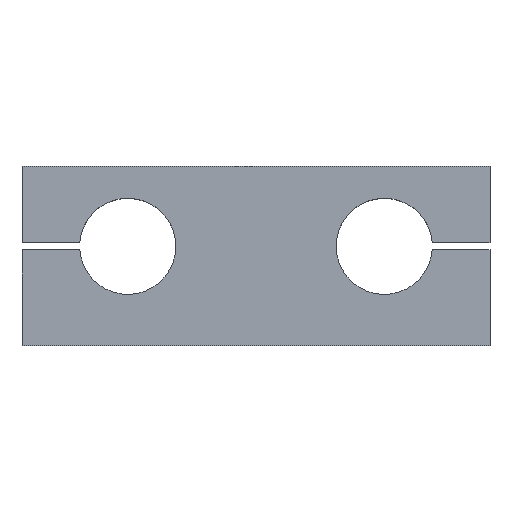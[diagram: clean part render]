
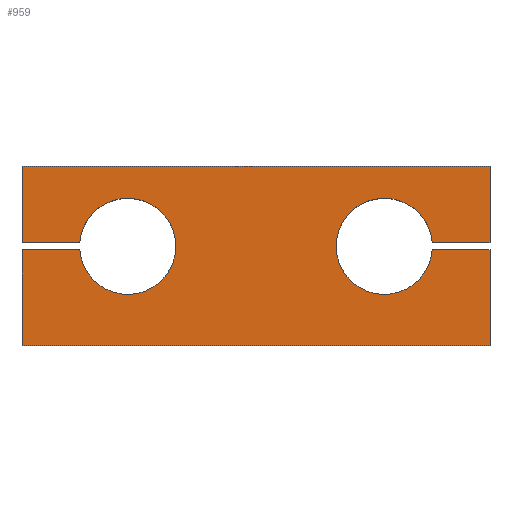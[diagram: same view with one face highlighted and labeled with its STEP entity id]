
A CAD part, top view. The second image highlights one B-rep face of the part: STEP entity #959.
In plain terms, the highlighted planar face has unit normal (0, 0, 1).
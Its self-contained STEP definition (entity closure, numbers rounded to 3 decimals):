
#1 = VERTEX_POINT ( 'NONE', #639 ) ;
#3 = CARTESIAN_POINT ( 'NONE',  ( -73., -28., 10. ) ) ;
#38 = VERTEX_POINT ( 'NONE', #570 ) ;
#47 = ORIENTED_EDGE ( 'NONE', *, *, #863, .F. ) ;
#61 = VECTOR ( 'NONE', #236, 1000. ) ;
#64 = VERTEX_POINT ( 'NONE', #539 ) ;
#76 = PLANE ( 'NONE',  #694 ) ;
#77 = EDGE_CURVE ( 'NONE', #723, #350, #91, .T. ) ;
#79 = DIRECTION ( 'NONE',  ( 1., 0., 0. ) ) ;
#83 = DIRECTION ( 'NONE',  ( 1., 0., 0. ) ) ;
#91 = LINE ( 'NONE', #180, #264 ) ;
#97 = CARTESIAN_POINT ( 'NONE',  ( -40., 3., 10. ) ) ;
#106 = CARTESIAN_POINT ( 'NONE',  ( -73., 28., 10. ) ) ;
#107 = VECTOR ( 'NONE', #828, 1000. ) ;
#123 = ORIENTED_EDGE ( 'NONE', *, *, #797, .F. ) ;
#138 = ORIENTED_EDGE ( 'NONE', *, *, #506, .T. ) ;
#151 = EDGE_CURVE ( 'NONE', #792, #38, #342, .T. ) ;
#154 = FACE_OUTER_BOUND ( 'NONE', #404, .T. ) ;
#180 = CARTESIAN_POINT ( 'NONE',  ( 73., 28., 10. ) ) ;
#211 = CARTESIAN_POINT ( 'NONE',  ( -73., 4.075, 10. ) ) ;
#220 = AXIS2_PLACEMENT_3D ( 'NONE', #97, #779, #444 ) ;
#222 = VECTOR ( 'NONE', #749, 1000. ) ;
#232 = CARTESIAN_POINT ( 'NONE',  ( 39., 4.075, 10. ) ) ;
#233 = ORIENTED_EDGE ( 'NONE', *, *, #1001, .F. ) ;
#236 = DIRECTION ( 'NONE',  ( 0., -1., 0. ) ) ;
#241 = LINE ( 'NONE', #232, #222 ) ;
#255 = DIRECTION ( 'NONE',  ( 0., 0., 1. ) ) ;
#264 = VECTOR ( 'NONE', #600, 1000. ) ;
#274 = VERTEX_POINT ( 'NONE', #534 ) ;
#275 = DIRECTION ( 'NONE',  ( 1., 0., 0. ) ) ;
#279 = VERTEX_POINT ( 'NONE', #876 ) ;
#286 = CARTESIAN_POINT ( 'NONE',  ( 73., 1.925, 10. ) ) ;
#287 = EDGE_CURVE ( 'NONE', #274, #1, #941, .T. ) ;
#319 = CARTESIAN_POINT ( 'NONE',  ( -73., 28., 10. ) ) ;
#321 = LINE ( 'NONE', #211, #557 ) ;
#323 = EDGE_CURVE ( 'NONE', #274, #903, #769, .T. ) ;
#330 = LINE ( 'NONE', #1002, #61 ) ;
#331 = CARTESIAN_POINT ( 'NONE',  ( -73., 4.075, 10. ) ) ;
#342 = CIRCLE ( 'NONE', #463, 15. ) ;
#349 = CARTESIAN_POINT ( 'NONE',  ( -73., 1.925, 10. ) ) ;
#350 = VERTEX_POINT ( 'NONE', #286 ) ;
#354 = DIRECTION ( 'NONE',  ( 1., 0., 0. ) ) ;
#378 = CARTESIAN_POINT ( 'NONE',  ( 54.961, 4.075, 10. ) ) ;
#404 = EDGE_LOOP ( 'NONE', ( #123, #1016, #821, #458, #1056, #739, #996, #47, #233, #552, #649, #524, #138 ) ) ;
#437 = LINE ( 'NONE', #3, #1031 ) ;
#444 = DIRECTION ( 'NONE',  ( 1., 0., 0. ) ) ;
#458 = ORIENTED_EDGE ( 'NONE', *, *, #323, .F. ) ;
#463 = AXIS2_PLACEMENT_3D ( 'NONE', #698, #880, #275 ) ;
#464 = VERTEX_POINT ( 'NONE', #1051 ) ;
#483 = CARTESIAN_POINT ( 'NONE',  ( 73., 28., 10. ) ) ;
#488 = EDGE_CURVE ( 'NONE', #1103, #1109, #241, .T. ) ;
#493 = EDGE_CURVE ( 'NONE', #279, #464, #745, .T. ) ;
#506 = EDGE_CURVE ( 'NONE', #464, #868, #330, .T. ) ;
#511 = EDGE_CURVE ( 'NONE', #1103, #279, #665, .T. ) ;
#524 = ORIENTED_EDGE ( 'NONE', *, *, #493, .T. ) ;
#534 = CARTESIAN_POINT ( 'NONE',  ( -73., 1.925, 10. ) ) ;
#539 = CARTESIAN_POINT ( 'NONE',  ( 54.961, 1.925, 10. ) ) ;
#552 = ORIENTED_EDGE ( 'NONE', *, *, #488, .F. ) ;
#557 = VECTOR ( 'NONE', #732, 1000. ) ;
#570 = CARTESIAN_POINT ( 'NONE',  ( -54.961, 4.075, 10. ) ) ;
#576 = VECTOR ( 'NONE', #83, 1000. ) ;
#582 = CARTESIAN_POINT ( 'NONE',  ( -54.961, 1.925, 10. ) ) ;
#592 = CARTESIAN_POINT ( 'NONE',  ( 39., 1.925, 10. ) ) ;
#597 = DIRECTION ( 'NONE',  ( 1., 0., 0. ) ) ;
#600 = DIRECTION ( 'NONE',  ( 0., 1., 0. ) ) ;
#639 = CARTESIAN_POINT ( 'NONE',  ( -73., -28., 10. ) ) ;
#649 = ORIENTED_EDGE ( 'NONE', *, *, #511, .T. ) ;
#665 = LINE ( 'NONE', #483, #107 ) ;
#694 = AXIS2_PLACEMENT_3D ( 'NONE', #840, #1019, #79 ) ;
#698 = CARTESIAN_POINT ( 'NONE',  ( -40., 3., 10. ) ) ;
#719 = CARTESIAN_POINT ( 'NONE',  ( 73., 4.075, 10. ) ) ;
#723 = VERTEX_POINT ( 'NONE', #1004 ) ;
#732 = DIRECTION ( 'NONE',  ( -1., 0., 0. ) ) ;
#739 = ORIENTED_EDGE ( 'NONE', *, *, #1055, .T. ) ;
#745 = LINE ( 'NONE', #319, #839 ) ;
#746 = CARTESIAN_POINT ( 'NONE',  ( -25., 3., 10. ) ) ;
#749 = DIRECTION ( 'NONE',  ( -1., 0., 0. ) ) ;
#768 = DIRECTION ( 'NONE',  ( 1., 0., 0. ) ) ;
#769 = LINE ( 'NONE', #349, #804 ) ;
#779 = DIRECTION ( 'NONE',  ( 0., 0., 1. ) ) ;
#782 = CIRCLE ( 'NONE', #220, 15. ) ;
#792 = VERTEX_POINT ( 'NONE', #746 ) ;
#797 = EDGE_CURVE ( 'NONE', #38, #868, #321, .T. ) ;
#804 = VECTOR ( 'NONE', #354, 1000. ) ;
#821 = ORIENTED_EDGE ( 'NONE', *, *, #1070, .F. ) ;
#828 = DIRECTION ( 'NONE',  ( 0., 1., 0. ) ) ;
#837 = AXIS2_PLACEMENT_3D ( 'NONE', #1010, #255, #597 ) ;
#839 = VECTOR ( 'NONE', #1089, 1000. ) ;
#840 = CARTESIAN_POINT ( 'NONE',  ( 0., 0., 10. ) ) ;
#863 = EDGE_CURVE ( 'NONE', #64, #350, #1014, .T. ) ;
#868 = VERTEX_POINT ( 'NONE', #331 ) ;
#876 = CARTESIAN_POINT ( 'NONE',  ( 73., 28., 10. ) ) ;
#880 = DIRECTION ( 'NONE',  ( 0., 0., 1. ) ) ;
#899 = VECTOR ( 'NONE', #1023, 1000. ) ;
#903 = VERTEX_POINT ( 'NONE', #582 ) ;
#941 = LINE ( 'NONE', #106, #899 ) ;
#959 = ADVANCED_FACE ( 'NONE', ( #154 ), #76, .T. ) ;
#965 = CIRCLE ( 'NONE', #837, 15. ) ;
#996 = ORIENTED_EDGE ( 'NONE', *, *, #77, .T. ) ;
#1001 = EDGE_CURVE ( 'NONE', #1109, #64, #965, .T. ) ;
#1002 = CARTESIAN_POINT ( 'NONE',  ( -73., 28., 10. ) ) ;
#1004 = CARTESIAN_POINT ( 'NONE',  ( 73., -28., 10. ) ) ;
#1010 = CARTESIAN_POINT ( 'NONE',  ( 40., 3., 10. ) ) ;
#1014 = LINE ( 'NONE', #592, #576 ) ;
#1016 = ORIENTED_EDGE ( 'NONE', *, *, #151, .F. ) ;
#1019 = DIRECTION ( 'NONE',  ( 0., 0., 1. ) ) ;
#1023 = DIRECTION ( 'NONE',  ( 0., -1., 0. ) ) ;
#1031 = VECTOR ( 'NONE', #768, 1000. ) ;
#1051 = CARTESIAN_POINT ( 'NONE',  ( -73., 28., 10. ) ) ;
#1055 = EDGE_CURVE ( 'NONE', #1, #723, #437, .T. ) ;
#1056 = ORIENTED_EDGE ( 'NONE', *, *, #287, .T. ) ;
#1070 = EDGE_CURVE ( 'NONE', #903, #792, #782, .T. ) ;
#1089 = DIRECTION ( 'NONE',  ( -1., 0., 0. ) ) ;
#1103 = VERTEX_POINT ( 'NONE', #719 ) ;
#1109 = VERTEX_POINT ( 'NONE', #378 ) ;
